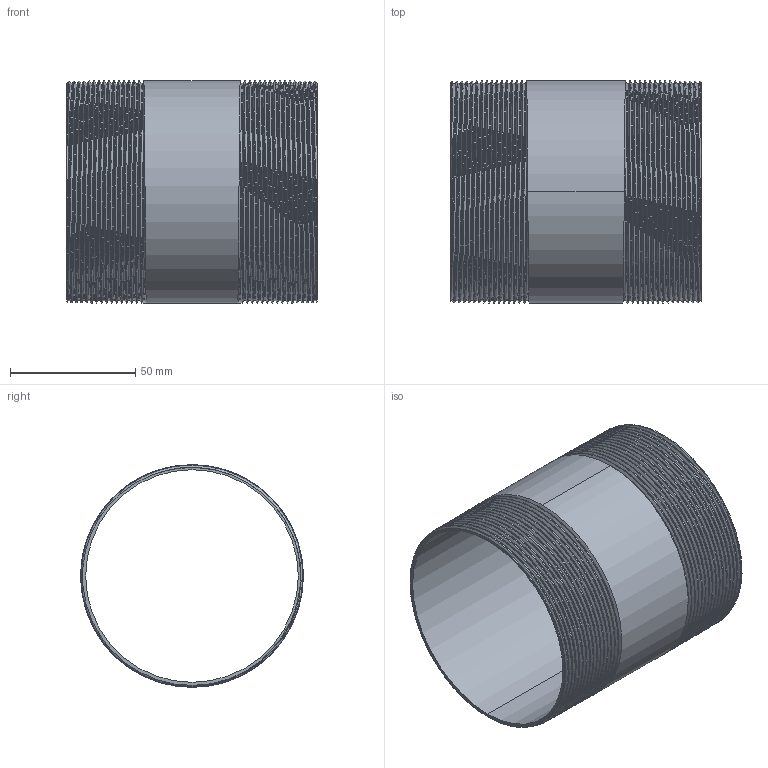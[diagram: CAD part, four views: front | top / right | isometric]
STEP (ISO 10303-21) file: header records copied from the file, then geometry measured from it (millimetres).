
FILE_DESCRIPTION (( 'STEP AP203' ), '1' );
FILE_NAME ('3D_R210_3x100_17148670.STEP', '2024-08-16T10:24:45', ( '' ), ( '' ), 'SwSTEP 2.0', 'SolidWorks 2024', '' );
FILE_SCHEMA (( 'CONFIG_CONTROL_DESIGN' ));
Length unit declared in the file: millimetre
Products named in the file (1): 3D_R210_3x100_17148670
Bounding box: 100 x 88.87 x 88.9 mm (x, y, z)
Volume: 43970.5 mm3; surface area: 64794.8 mm2
Topology: 1 solids, 1 shells, 80 faces, 228 edges, 150 vertices
Faces by surface type: cone 66, bspline 6, cylinder 4, plane 4
Entity records: 16579 total; most frequent: CARTESIAN_POINT 14717, ORIENTED_EDGE 456, DIRECTION 248, EDGE_CURVE 228, VERTEX_POINT 150, B_SPLINE_CURVE_WITH_KNOTS 134, AXIS2_PLACEMENT_3D 87, EDGE_LOOP 82
